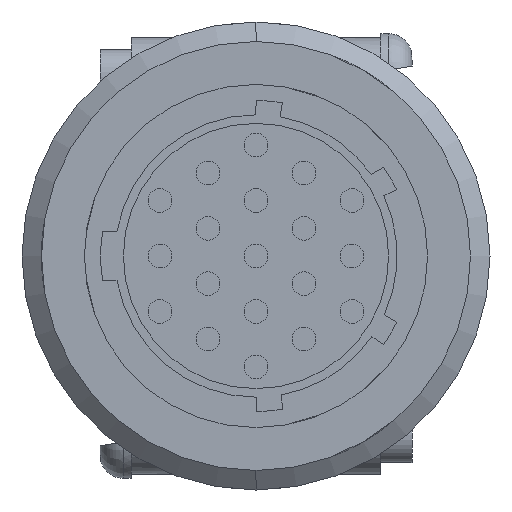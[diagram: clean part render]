
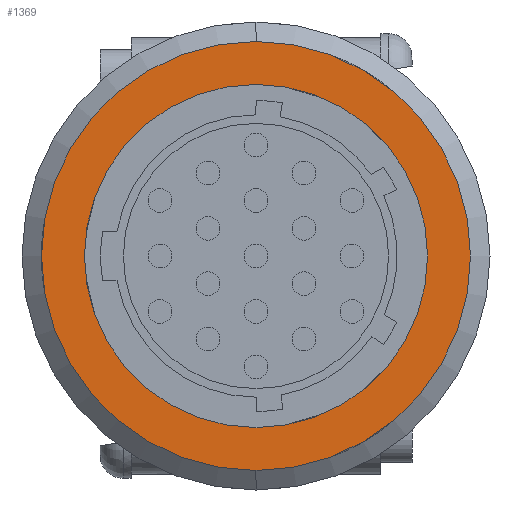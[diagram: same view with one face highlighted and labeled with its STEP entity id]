
A CAD part, left-side view. The second image highlights one B-rep face of the part: STEP entity #1369.
In plain terms, the highlighted planar face has unit normal (-1, 0, 0).
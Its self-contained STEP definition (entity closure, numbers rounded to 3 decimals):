
#59 = CARTESIAN_POINT ( 'NONE',  ( 0., 0., 0. ) ) ;
#82 = CARTESIAN_POINT ( 'NONE',  ( 0., 0., 0. ) ) ;
#556 = AXIS2_PLACEMENT_3D ( 'NONE', #59, #3865, #6694 ) ;
#799 = DIRECTION ( 'NONE',  ( 0., 0., 1. ) ) ;
#951 = EDGE_LOOP ( 'NONE', ( #3949, #7433 ) ) ;
#1023 = CARTESIAN_POINT ( 'NONE',  ( 0., 0., 13.75 ) ) ;
#1064 = CIRCLE ( 'NONE', #3844, 11. ) ;
#1151 = CIRCLE ( 'NONE', #556, 13.75 ) ;
#1369 = ADVANCED_FACE ( 'NONE', ( #5268, #3125 ), #2382, .F. ) ;
#1482 = EDGE_CURVE ( 'NONE', #2609, #3433, #1151, .T. ) ;
#1514 = CARTESIAN_POINT ( 'NONE',  ( 0., 0., -13.75 ) ) ;
#1551 = DIRECTION ( 'NONE',  ( -1., 0., 0. ) ) ;
#1766 = DIRECTION ( 'NONE',  ( 0., 0., -1. ) ) ;
#2382 = PLANE ( 'NONE',  #4647 ) ;
#2515 = DIRECTION ( 'NONE',  ( -1., 0., 0. ) ) ;
#2603 = EDGE_CURVE ( 'NONE', #3433, #2609, #6276, .T. ) ;
#2609 = VERTEX_POINT ( 'NONE', #1514 ) ;
#3085 = ORIENTED_EDGE ( 'NONE', *, *, #7458, .F. ) ;
#3125 = FACE_OUTER_BOUND ( 'NONE', #951, .T. ) ;
#3174 = CIRCLE ( 'NONE', #7576, 11. ) ;
#3433 = VERTEX_POINT ( 'NONE', #1023 ) ;
#3844 = AXIS2_PLACEMENT_3D ( 'NONE', #82, #5180, #799 ) ;
#3865 = DIRECTION ( 'NONE',  ( -1., 0., 0. ) ) ;
#3949 = ORIENTED_EDGE ( 'NONE', *, *, #2603, .T. ) ;
#4042 = EDGE_CURVE ( 'NONE', #7551, #5277, #1064, .T. ) ;
#4647 = AXIS2_PLACEMENT_3D ( 'NONE', #8225, #5436, #1766 ) ;
#5180 = DIRECTION ( 'NONE',  ( -1., 0., 0. ) ) ;
#5268 = FACE_BOUND ( 'NONE', #7097, .T. ) ;
#5277 = VERTEX_POINT ( 'NONE', #8667 ) ;
#5436 = DIRECTION ( 'NONE',  ( 1., 0., 0. ) ) ;
#5919 = CARTESIAN_POINT ( 'NONE',  ( 0., 0., 0. ) ) ;
#6276 = CIRCLE ( 'NONE', #7660, 13.75 ) ;
#6645 = DIRECTION ( 'NONE',  ( 0., 0., 1. ) ) ;
#6694 = DIRECTION ( 'NONE',  ( 0., 0., 1. ) ) ;
#6853 = CARTESIAN_POINT ( 'NONE',  ( 0., 0., 0. ) ) ;
#6950 = CARTESIAN_POINT ( 'NONE',  ( 0., 0., -11. ) ) ;
#7097 = EDGE_LOOP ( 'NONE', ( #3085, #7636 ) ) ;
#7433 = ORIENTED_EDGE ( 'NONE', *, *, #1482, .T. ) ;
#7458 = EDGE_CURVE ( 'NONE', #5277, #7551, #3174, .T. ) ;
#7551 = VERTEX_POINT ( 'NONE', #6950 ) ;
#7576 = AXIS2_PLACEMENT_3D ( 'NONE', #6853, #2515, #7601 ) ;
#7601 = DIRECTION ( 'NONE',  ( 0., 0., 1. ) ) ;
#7636 = ORIENTED_EDGE ( 'NONE', *, *, #4042, .F. ) ;
#7660 = AXIS2_PLACEMENT_3D ( 'NONE', #5919, #1551, #6645 ) ;
#8225 = CARTESIAN_POINT ( 'NONE',  ( 0., 0., 0. ) ) ;
#8667 = CARTESIAN_POINT ( 'NONE',  ( 0., 0., 11. ) ) ;
